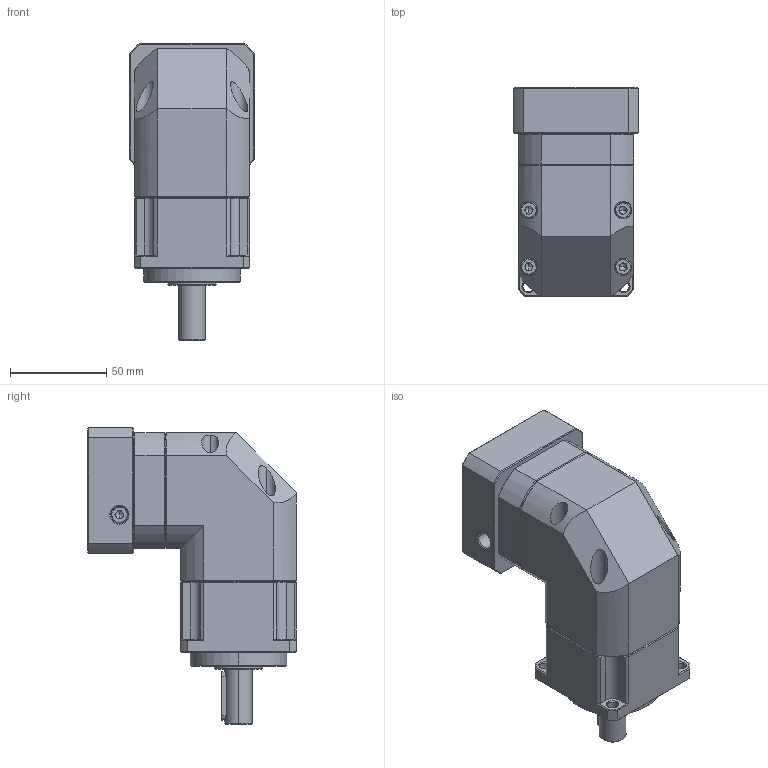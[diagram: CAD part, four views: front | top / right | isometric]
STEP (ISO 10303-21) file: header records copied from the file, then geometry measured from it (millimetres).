
FILE_DESCRIPTION (( 'STEP AP214' ), '1' );
FILE_NAME ('ZPBR060-D14-L1-P1-14-60-75-M5.STEP', '2024-05-03T14:19:53', ( 'Windows 蚚誧' ), ( 'Organization' ), 'SwSTEP 2.0', 'SolidWorks 2016', '' );
FILE_SCHEMA (( 'AUTOMOTIVE_DESIGN' ));
Length unit declared in the file: millimetre
Products named in the file (1): ZPBR060-D14-L1-P1-14-60-75-M5
Bounding box: 65 x 108.2 x 153.5 mm (x, y, z)
Volume: 499772.4 mm3; surface area: 67102.2 mm2
Topology: 1 solids, 33 shells, 1921 faces, 5100 edges, 3261 vertices
Faces by surface type: plane 1009, bspline 397, cone 260, cylinder 253, torus 2
Entity records: 84605 total; most frequent: CARTESIAN_POINT 33573, ORIENTED_EDGE 10156, DIRECTION 7901, EDGE_CURVE 5078, LINE 3355, VECTOR 3355, VERTEX_POINT 3261, AXIS2_PLACEMENT_3D 2273
